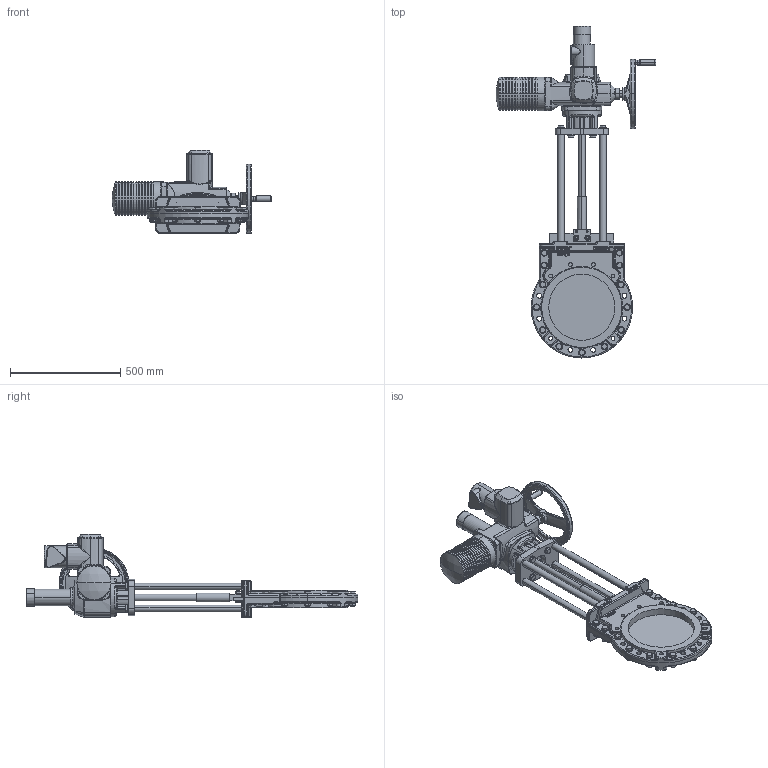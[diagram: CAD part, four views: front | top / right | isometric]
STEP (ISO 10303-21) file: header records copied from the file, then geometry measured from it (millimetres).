
FILE_DESCRIPTION (( 'STEP AP214' ), '1' );
FILE_NAME ('MGE DN 0300 PN10 (SA 14.2).STEP', '2015-09-23T08:40:56', ( 'admin' ), ( 'Hewlett-Packard Company' ), 'SwSTEP 2.0', 'SolidWorks 2013', '' );
FILE_SCHEMA (( 'AUTOMOTIVE_DESIGN' ));
Length unit declared in the file: millimetre
Products named in the file (1): MGE DN 0300 PN10 (SA 14.2)
Bounding box: 725 x 1504.5 x 376.75 mm (x, y, z)
Volume: 29327088.2 mm3; surface area: 2174772.5 mm2
Topology: 79 solids, 91 shells, 3046 faces, 7018 edges, 4213 vertices
Faces by surface type: plane 1032, cylinder 818, cone 545, bspline 381, torus 238, sphere 32
Entity records: 147639 total; most frequent: CARTESIAN_POINT 46803, ORIENTED_EDGE 13888, DIRECTION 13640, EDGE_CURVE 6944, AXIS2_PLACEMENT_3D 5525, VERTEX_POINT 4213, EDGE_LOOP 3363, UNCERTAINTY_MEASURE_WITH_UNIT 3125
